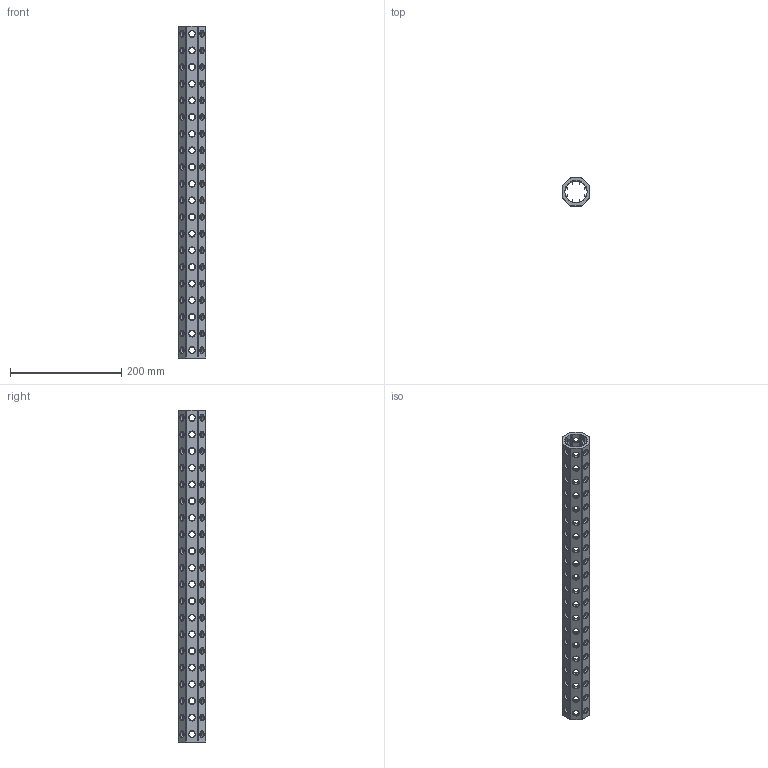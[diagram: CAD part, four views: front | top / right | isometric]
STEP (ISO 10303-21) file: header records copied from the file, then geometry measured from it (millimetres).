
FILE_DESCRIPTION(('CATIA V5 STEP Exchange'),'2;1');
FILE_NAME('U:\Room\唐宝山\EGT002\46-01-010249-01-EGT002-598.stp','2021-08-24T01:04:03+00:00',('none'),('none'),'CATIA Version 5 Release 21 GA (IN-10)','CATIA V5 STEP AP203','none');
FILE_SCHEMA(('CONFIG_CONTROL_DESIGN'));
Length unit declared in the file: millimetre
Products named in the file (1): 46-01-010249-01-EGT002-598
Bounding box: 50 x 50 x 598 mm (x, y, z)
Volume: 425886.2 mm3; surface area: 206589.3 mm2
Topology: 1 solids, 1 shells, 884 faces, 2446 edges, 1524 vertices
Faces by surface type: cone 480, cylinder 378, plane 26
Entity records: 36192 total; most frequent: CARTESIAN_POINT 14741, ORIENTED_EDGE 4892, DIRECTION 3439, EDGE_CURVE 2446, AXIS2_PLACEMENT_3D 1586, VERTEX_POINT 1524, EDGE_LOOP 1166, VECTOR 970
